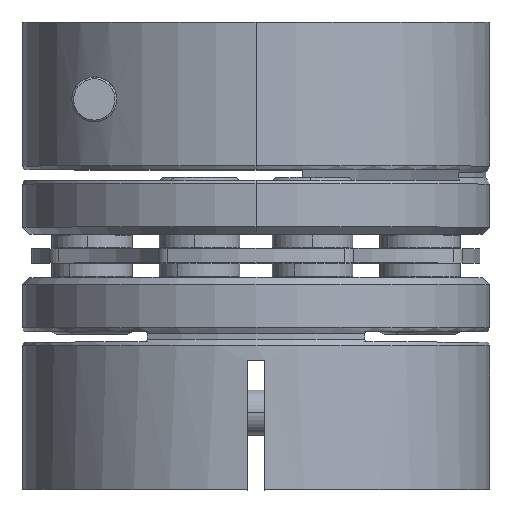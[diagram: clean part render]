
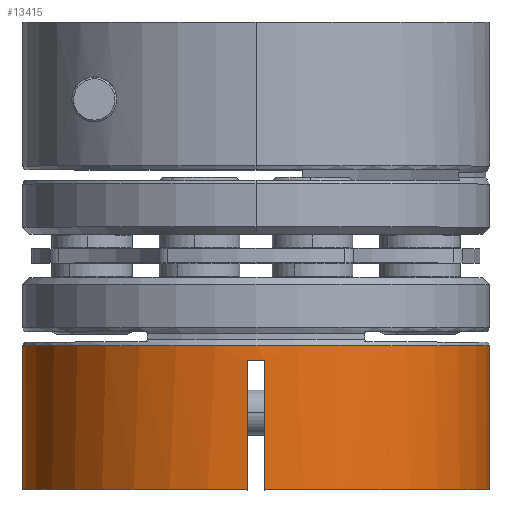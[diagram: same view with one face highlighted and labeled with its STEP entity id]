
A CAD part, top view. The second image highlights one B-rep face of the part: STEP entity #13415.
In plain terms, the highlighted cylindrical face has radius 13 mm (diameter 26 mm), a partial arc.
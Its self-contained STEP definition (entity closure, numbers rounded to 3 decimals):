
#204 = AXIS2_PLACEMENT_3D ( 'NONE', #22111, #14839, #22185 ) ;
#1479 = CARTESIAN_POINT ( 'NONE',  ( -11.245, -56.94, 0. ) ) ;
#1658 = DIRECTION ( 'NONE',  ( 0., 1., 0. ) ) ;
#2025 = LINE ( 'NONE', #3709, #20389 ) ;
#3424 = DIRECTION ( 'NONE',  ( 0., 1., 0. ) ) ;
#3438 = CARTESIAN_POINT ( 'NONE',  ( 2.255, -26.289, 12.99 ) ) ;
#3523 = DIRECTION ( 'NONE',  ( 0., -1., 0. ) ) ;
#3695 = VERTEX_POINT ( 'NONE', #6071 ) ;
#3709 = CARTESIAN_POINT ( 'NONE',  ( 14.755, -56.94, 0. ) ) ;
#3867 = DIRECTION ( 'NONE',  ( 0., 1., 0. ) ) ;
#4115 = AXIS2_PLACEMENT_3D ( 'NONE', #22495, #1658, #21558 ) ;
#4772 = ORIENTED_EDGE ( 'NONE', *, *, #19683, .F. ) ;
#4887 = EDGE_CURVE ( 'NONE', #5240, #6972, #14699, .T. ) ;
#4975 = CIRCLE ( 'NONE', #204, 13. ) ;
#5240 = VERTEX_POINT ( 'NONE', #9348 ) ;
#5878 = ORIENTED_EDGE ( 'NONE', *, *, #19836, .F. ) ;
#6071 = CARTESIAN_POINT ( 'NONE',  ( 14.755, -18.289, 0. ) ) ;
#6145 = VERTEX_POINT ( 'NONE', #15784 ) ;
#6869 = DIRECTION ( 'NONE',  ( -1., 0., 0. ) ) ;
#6972 = VERTEX_POINT ( 'NONE', #11432 ) ;
#7429 = CARTESIAN_POINT ( 'NONE',  ( 1.255, -26.289, 12.99 ) ) ;
#8036 = CARTESIAN_POINT ( 'NONE',  ( 1.589, -19.16, 13.003 ) ) ;
#8095 = CARTESIAN_POINT ( 'NONE',  ( 14.755, -26.289, 0. ) ) ;
#8223 = CYLINDRICAL_SURFACE ( 'NONE', #18886, 13. ) ;
#8271 = CIRCLE ( 'NONE', #4115, 13. ) ;
#9348 = CARTESIAN_POINT ( 'NONE',  ( 1.255, -19.154, 12.99 ) ) ;
#9890 = VERTEX_POINT ( 'NONE', #7429 ) ;
#9970 = CARTESIAN_POINT ( 'NONE',  ( 1.255, -19.154, 12.99 ) ) ;
#10672 = CARTESIAN_POINT ( 'NONE',  ( 1.755, -56.94, 0. ) ) ;
#11056 = EDGE_CURVE ( 'NONE', #12188, #12916, #4975, .T. ) ;
#11432 = CARTESIAN_POINT ( 'NONE',  ( 2.255, -19.154, 12.99 ) ) ;
#11593 = CARTESIAN_POINT ( 'NONE',  ( 2.255, -19.154, 12.99 ) ) ;
#11703 = CARTESIAN_POINT ( 'NONE',  ( 1.755, -26.289, 0. ) ) ;
#11937 = VECTOR ( 'NONE', #3523, 1000. ) ;
#12188 = VERTEX_POINT ( 'NONE', #8095 ) ;
#12314 = VERTEX_POINT ( 'NONE', #13754 ) ;
#12436 = LINE ( 'NONE', #17571, #17414 ) ;
#12774 = AXIS2_PLACEMENT_3D ( 'NONE', #11703, #13488, #13410 ) ;
#12916 = VERTEX_POINT ( 'NONE', #3438 ) ;
#12934 = ORIENTED_EDGE ( 'NONE', *, *, #22144, .T. ) ;
#12978 = CIRCLE ( 'NONE', #12774, 13. ) ;
#13235 = ORIENTED_EDGE ( 'NONE', *, *, #14384, .F. ) ;
#13315 = ORIENTED_EDGE ( 'NONE', *, *, #4887, .T. ) ;
#13410 = DIRECTION ( 'NONE',  ( 1., 0., 0. ) ) ;
#13415 = ADVANCED_FACE ( 'NONE', ( #21793 ), #8223, .T. ) ;
#13488 = DIRECTION ( 'NONE',  ( 0., -1., 0. ) ) ;
#13754 = CARTESIAN_POINT ( 'NONE',  ( -11.245, -18.289, 0. ) ) ;
#14158 = ORIENTED_EDGE ( 'NONE', *, *, #18246, .T. ) ;
#14174 = CARTESIAN_POINT ( 'NONE',  ( 2.255, -14.489, 12.99 ) ) ;
#14344 = ORIENTED_EDGE ( 'NONE', *, *, #11056, .F. ) ;
#14384 = EDGE_CURVE ( 'NONE', #6145, #12314, #18701, .T. ) ;
#14386 = DIRECTION ( 'NONE',  ( 0., -1., 0. ) ) ;
#14699 = B_SPLINE_CURVE_WITH_KNOTS ( 'NONE', 3,
 ( #9970, #8036, #22214, #11593 ),
 .UNSPECIFIED., .F., .F.,
 ( 4, 4 ),
 ( 0., 0.001 ),
 .UNSPECIFIED. ) ;
#14839 = DIRECTION ( 'NONE',  ( 0., -1., 0. ) ) ;
#15535 = LINE ( 'NONE', #14174, #11937 ) ;
#15784 = CARTESIAN_POINT ( 'NONE',  ( -11.245, -26.289, 0. ) ) ;
#17414 = VECTOR ( 'NONE', #14386, 1000. ) ;
#17571 = CARTESIAN_POINT ( 'NONE',  ( 1.255, -14.489, 12.99 ) ) ;
#17875 = VECTOR ( 'NONE', #19216, 1000. ) ;
#18246 = EDGE_CURVE ( 'NONE', #6972, #12916, #15535, .T. ) ;
#18701 = LINE ( 'NONE', #1479, #17875 ) ;
#18886 = AXIS2_PLACEMENT_3D ( 'NONE', #10672, #3424, #6869 ) ;
#19216 = DIRECTION ( 'NONE',  ( 0., 1., 0. ) ) ;
#19643 = EDGE_LOOP ( 'NONE', ( #14344, #12934, #5878, #13235, #4772, #20477, #13315, #14158 ) ) ;
#19683 = EDGE_CURVE ( 'NONE', #9890, #6145, #12978, .T. ) ;
#19806 = EDGE_CURVE ( 'NONE', #5240, #9890, #12436, .T. ) ;
#19836 = EDGE_CURVE ( 'NONE', #12314, #3695, #8271, .T. ) ;
#20389 = VECTOR ( 'NONE', #3867, 1000. ) ;
#20477 = ORIENTED_EDGE ( 'NONE', *, *, #19806, .F. ) ;
#21558 = DIRECTION ( 'NONE',  ( -1., 0., 0. ) ) ;
#21793 = FACE_OUTER_BOUND ( 'NONE', #19643, .T. ) ;
#22111 = CARTESIAN_POINT ( 'NONE',  ( 1.755, -26.289, 0. ) ) ;
#22144 = EDGE_CURVE ( 'NONE', #12188, #3695, #2025, .T. ) ;
#22185 = DIRECTION ( 'NONE',  ( 1., 0., 0. ) ) ;
#22214 = CARTESIAN_POINT ( 'NONE',  ( 1.922, -19.16, 13.003 ) ) ;
#22495 = CARTESIAN_POINT ( 'NONE',  ( 1.755, -18.289, 0. ) ) ;
